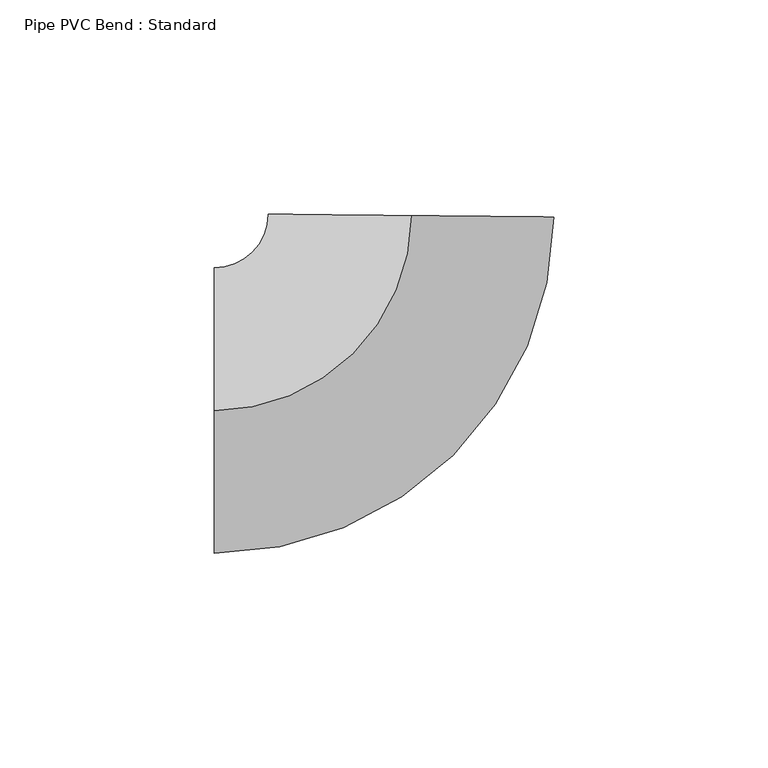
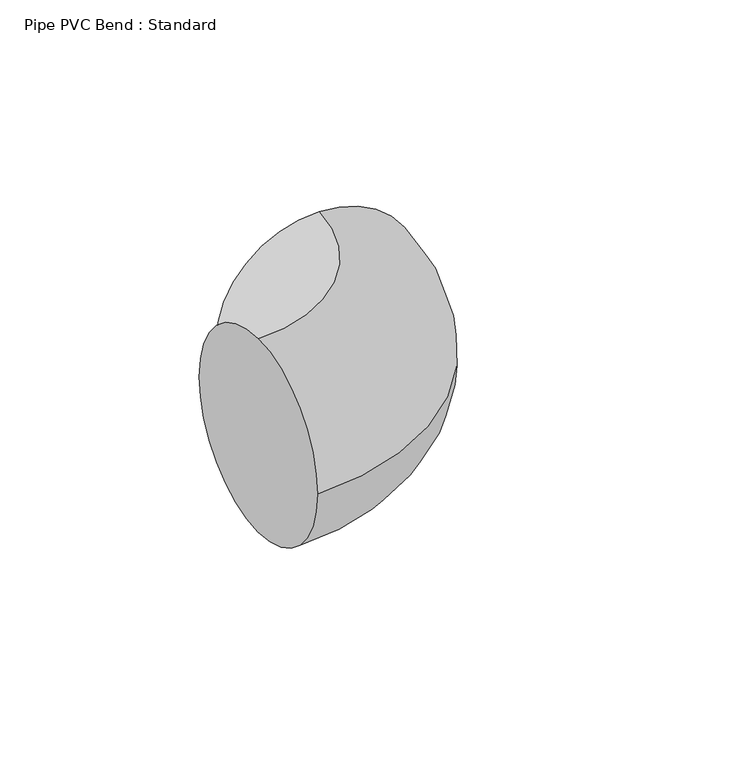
"""IFC4 building model written with IfcOpenShell, lengths in millimetres: pipe fitting geometry, Pipe PVC Bend : Standard."""

from ifc_helpers import new_model, si_unit, point, frame, origin, place, context, project, spatial, circle_curve, ellipse_curve, trimmed, source, transform, mapped, element, save
from ifc_brep_helpers import plane_surface, revolved_surface, advanced_brep


def pipe_pvc_bend_standard_0bbfa224(model_context):
    return source(origin(), model_context, "Body", "AdvancedBrep", [
        advanced_brep(
        [(-45.5604406, 0.0, 33.3375), (-45.5604406, 33.3375, 0.0), (-45.5604406, 0.0, -33.3375), (-45.5604406, -33.3375, 0.0), (0.4745619, 45.557969, 33.3375), (33.8102534, 45.2107224, 0.0), (0.4745619, 45.557969, -33.3375), (-32.8611295, 45.9052156, 0.0)],
        [
            (0, 1, circle_curve(frame((-45.5604406, 0.0, 0.0), z_axis=(-1.0, 0.0, 0.0), x_axis=(0.0, 1.0, 0.0)), 33.3375)),
            (1, 2, circle_curve(frame((-45.5604406, 0.0, 0.0), z_axis=(-1.0, 0.0, 0.0), x_axis=(0.0, 1.0, 0.0)), 33.3375)),
            (2, 3, circle_curve(frame((-45.5604406, 0.0, 0.0), z_axis=(-1.0, 0.0, 0.0), x_axis=(0.0, 1.0, 0.0)), 33.3375)),
            (3, 0, circle_curve(frame((-45.5604406, 0.0, 0.0), z_axis=(-1.0, 0.0, 0.0), x_axis=(0.0, 1.0, 0.0)), 33.3375)),
            (4, 5, circle_curve(frame((0.4745619, 45.557969, 0.0), z_axis=(0.01041609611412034, 0.9999457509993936, 0.0), x_axis=(-0.9999457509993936, 0.01041609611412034, 0.0)), 33.3375)),
            (5, 6, circle_curve(frame((0.4745619, 45.557969, 0.0), z_axis=(0.01041609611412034, 0.9999457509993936, 0.0), x_axis=(-0.9999457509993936, 0.01041609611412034, 0.0)), 33.3375)),
            (6, 7, circle_curve(frame((0.4745619, 45.557969, 0.0), z_axis=(0.01041609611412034, 0.9999457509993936, 0.0), x_axis=(-0.9999457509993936, 0.01041609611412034, 0.0)), 33.3375)),
            (7, 4, circle_curve(frame((0.4745619, 45.557969, 0.0), z_axis=(0.01041609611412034, 0.9999457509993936, 0.0), x_axis=(-0.9999457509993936, 0.01041609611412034, 0.0)), 33.3375)),
            (7, 1, circle_curve(frame((-45.5604406, 46.0375, 0.0), z_axis=(0.0, 0.0, -1.0), x_axis=(0.0, -1.0, 0.0)), 12.7)),
            (0, 4, circle_curve(frame((-45.5604406, 46.0375, 33.3375), z_axis=(0.0, 0.0, 1.0), x_axis=(0.0, -1.0, 0.0)), 46.0375)),
            (6, 2, circle_curve(frame((-45.5604406, 46.0375, -33.3375), z_axis=(0.0, 0.0, -1.0), x_axis=(0.0, -1.0, 0.0)), 46.0375)),
            (5, 3, circle_curve(frame((-45.5604406, 46.0375, 0.0), z_axis=(0.0, 0.0, -1.0), x_axis=(0.0, -1.0, 0.0)), 79.375)),
        ],
        [
            plane_surface(frame((-45.5604406, 0.0, 0.0), z_axis=(-1.0, 0.0, 0.0), x_axis=(0.0, 0.0, 1.0))),
            plane_surface(frame((0.4745619, 45.557969, 0.0), z_axis=(0.010416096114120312, 0.9999457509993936, 0.0), x_axis=(0.0, 0.0, 1.0))),
            revolved_surface(trimmed(ellipse_curve(frame((-45.5604406, 0.0, 0.0), z_axis=(-1.0, 0.0, 0.0), x_axis=(0.0, 1.0, 0.0)), 33.3375, 33.3375), [point((-45.5604406, 0.0, 33.3375))], [point((-45.5604406, 33.3375, 0.0))], True, "CARTESIAN"), (-45.5604406, 46.0375, 0.0), (0.0, 0.0, 1.0)),
            revolved_surface(trimmed(ellipse_curve(frame((-45.5604406, 0.0, 0.0), z_axis=(-1.0, 0.0, 0.0), x_axis=(0.0, 1.0, 0.0)), 33.3375, 33.3375), [point((-45.5604406, 33.3375, 0.0))], [point((-45.5604406, 0.0, -33.3375))], True, "CARTESIAN"), (-45.5604406, 46.0375, 0.0), (0.0, 0.0, 1.0)),
            revolved_surface(trimmed(ellipse_curve(frame((-45.5604406, 0.0, 0.0), z_axis=(-1.0, 0.0, 0.0), x_axis=(0.0, 1.0, 0.0)), 33.3375, 33.3375), [point((-45.5604406, 0.0, -33.3375))], [point((-45.5604406, -33.3375, 0.0))], True, "CARTESIAN"), (-45.5604406, 46.0375, 0.0), (0.0, 0.0, 1.0)),
            revolved_surface(trimmed(ellipse_curve(frame((-45.5604406, 0.0, 0.0), z_axis=(-1.0, 0.0, 0.0), x_axis=(0.0, 1.0, 0.0)), 33.3375, 33.3375), [point((-45.5604406, -33.3375, 0.0))], [point((-45.5604406, 0.0, 33.3375))], True, "CARTESIAN"), (-45.5604406, 46.0375, 0.0), (0.0, 0.0, 1.0)),
        ],
        [
            (0, [[1, 2, 3, 4]]),
            (1, [[5, 6, 7, 8]]),
            (2, [[9, -1, 10, -8]]),
            (3, [[11, -2, -9, -7]]),
            (4, [[12, -3, -11, -6]]),
            (5, [[-10, -4, -12, -5]]),
        ],
    ),
        advanced_brep(
        [(-45.5604406, 0.0, 33.3375), (-45.5604406, 33.3375, 0.0), (-45.5604406, 0.0, -33.3375), (-45.5604406, -33.3375, 0.0), (0.4745619, 45.557969, 33.3375), (33.8102534, 45.2107224, 0.0), (0.4745619, 45.557969, -33.3375), (-32.8611295, 45.9052156, 0.0)],
        [
            (0, 1, circle_curve(frame((-45.5604406, 0.0, 0.0), z_axis=(-1.0, 0.0, 0.0), x_axis=(0.0, 1.0, 0.0)), 33.3375)),
            (1, 2, circle_curve(frame((-45.5604406, 0.0, 0.0), z_axis=(-1.0, 0.0, 0.0), x_axis=(0.0, 1.0, 0.0)), 33.3375)),
            (2, 3, circle_curve(frame((-45.5604406, 0.0, 0.0), z_axis=(-1.0, 0.0, 0.0), x_axis=(0.0, 1.0, 0.0)), 33.3375)),
            (3, 0, circle_curve(frame((-45.5604406, 0.0, 0.0), z_axis=(-1.0, 0.0, 0.0), x_axis=(0.0, 1.0, 0.0)), 33.3375)),
            (4, 5, circle_curve(frame((0.4745619, 45.557969, 0.0), z_axis=(0.01041609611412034, 0.9999457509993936, 0.0), x_axis=(-0.9999457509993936, 0.01041609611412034, 0.0)), 33.3375)),
            (5, 6, circle_curve(frame((0.4745619, 45.557969, 0.0), z_axis=(0.01041609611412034, 0.9999457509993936, 0.0), x_axis=(-0.9999457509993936, 0.01041609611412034, 0.0)), 33.3375)),
            (6, 7, circle_curve(frame((0.4745619, 45.557969, 0.0), z_axis=(0.01041609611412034, 0.9999457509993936, 0.0), x_axis=(-0.9999457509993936, 0.01041609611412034, 0.0)), 33.3375)),
            (7, 4, circle_curve(frame((0.4745619, 45.557969, 0.0), z_axis=(0.01041609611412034, 0.9999457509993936, 0.0), x_axis=(-0.9999457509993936, 0.01041609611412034, 0.0)), 33.3375)),
            (7, 1, circle_curve(frame((-45.5604406, 46.0375, 0.0), z_axis=(0.0, 0.0, -1.0), x_axis=(0.0, -1.0, 0.0)), 12.7)),
            (0, 4, circle_curve(frame((-45.5604406, 46.0375, 33.3375), z_axis=(0.0, 0.0, 1.0), x_axis=(0.0, -1.0, 0.0)), 46.0375)),
            (6, 2, circle_curve(frame((-45.5604406, 46.0375, -33.3375), z_axis=(0.0, 0.0, -1.0), x_axis=(0.0, -1.0, 0.0)), 46.0375)),
            (5, 3, circle_curve(frame((-45.5604406, 46.0375, 0.0), z_axis=(0.0, 0.0, -1.0), x_axis=(0.0, -1.0, 0.0)), 79.375)),
        ],
        [
            plane_surface(frame((-45.5604406, 0.0, 0.0), z_axis=(-1.0, 0.0, 0.0), x_axis=(0.0, 0.0, 1.0))),
            plane_surface(frame((0.4745619, 45.557969, 0.0), z_axis=(0.010416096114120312, 0.9999457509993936, 0.0), x_axis=(0.0, 0.0, 1.0))),
            revolved_surface(trimmed(ellipse_curve(frame((-45.5604406, 0.0, 0.0), z_axis=(-1.0, 0.0, 0.0), x_axis=(0.0, 1.0, 0.0)), 33.3375, 33.3375), [point((-45.5604406, 0.0, 33.3375))], [point((-45.5604406, 33.3375, 0.0))], True, "CARTESIAN"), (-45.5604406, 46.0375, 0.0), (0.0, 0.0, 1.0)),
            revolved_surface(trimmed(ellipse_curve(frame((-45.5604406, 0.0, 0.0), z_axis=(-1.0, 0.0, 0.0), x_axis=(0.0, 1.0, 0.0)), 33.3375, 33.3375), [point((-45.5604406, 33.3375, 0.0))], [point((-45.5604406, 0.0, -33.3375))], True, "CARTESIAN"), (-45.5604406, 46.0375, 0.0), (0.0, 0.0, 1.0)),
            revolved_surface(trimmed(ellipse_curve(frame((-45.5604406, 0.0, 0.0), z_axis=(-1.0, 0.0, 0.0), x_axis=(0.0, 1.0, 0.0)), 33.3375, 33.3375), [point((-45.5604406, 0.0, -33.3375))], [point((-45.5604406, -33.3375, 0.0))], True, "CARTESIAN"), (-45.5604406, 46.0375, 0.0), (0.0, 0.0, 1.0)),
            revolved_surface(trimmed(ellipse_curve(frame((-45.5604406, 0.0, 0.0), z_axis=(-1.0, 0.0, 0.0), x_axis=(0.0, 1.0, 0.0)), 33.3375, 33.3375), [point((-45.5604406, -33.3375, 0.0))], [point((-45.5604406, 0.0, 33.3375))], True, "CARTESIAN"), (-45.5604406, 46.0375, 0.0), (0.0, 0.0, 1.0)),
        ],
        [
            (0, [[1, 2, 3, 4]]),
            (1, [[5, 6, 7, 8]]),
            (2, [[9, -1, 10, -8]]),
            (3, [[11, -2, -9, -7]]),
            (4, [[12, -3, -11, -6]]),
            (5, [[-10, -4, -12, -5]]),
        ],
    ),
    ])


if __name__ == "__main__":
    model = new_model("IFC4")
    model_context = context("Model", 3, world=origin())
    ifc_project = project(units=[si_unit("LENGTHUNIT", "METRE", prefix="MILLI")], contexts=[model_context])
    site = spatial("IfcSite", under=ifc_project)
    building = spatial("IfcBuilding", under=site)
    placement = place(None, origin())
    pipe_pvc_bend_standard_shape = pipe_pvc_bend_standard_0bbfa224(model_context)
    element("IfcPipeFitting", 1, ObjectType="Pipe PVC Bend : Standard", at=placement, inside=building, context=model_context, shape_type="MappedRepresentation", body=[
        mapped(pipe_pvc_bend_standard_shape, transform((0.0, 0.0, 0.0), x_axis=(1.0, 0.0, 0.0), y_axis=(0.0, 1.0, 0.0), z_axis=(0.0, 0.0, 1.0))),
    ])
    save(model, "model.ifc")
